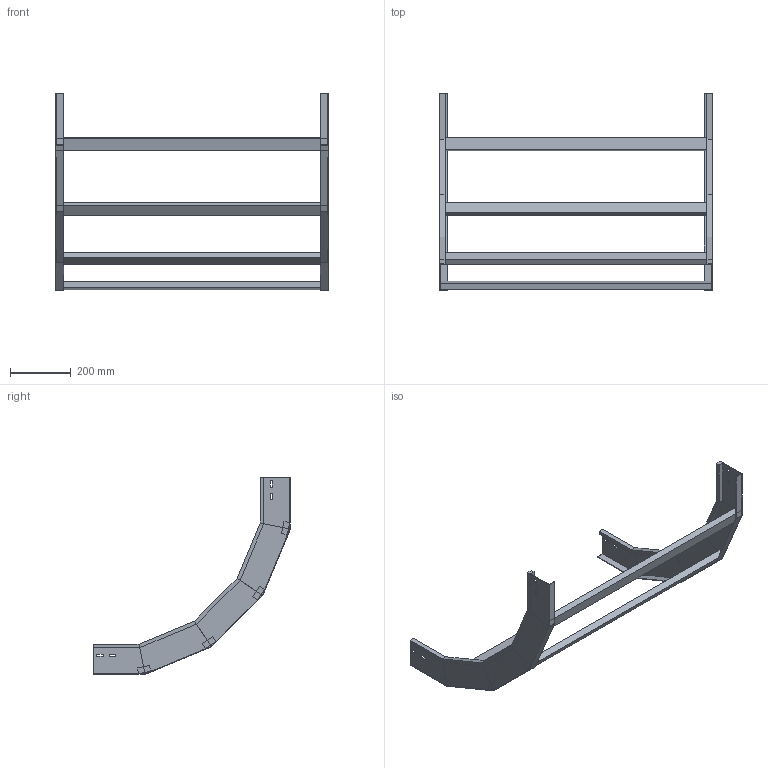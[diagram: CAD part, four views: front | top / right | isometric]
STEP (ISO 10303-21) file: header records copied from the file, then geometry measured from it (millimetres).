
FILE_DESCRIPTION (( 'STEP AP214' ), '1' );
FILE_NAME ('B2X30B5D900XX.step', '2025-03-20T10:21:08', ( '' ), ( '' ), 'SwSTEP 2.0', 'SolidWorks 2023', '' );
FILE_SCHEMA (( 'AUTOMOTIVE_DESIGN' ));
Length unit declared in the file: millimetre
Products named in the file (3): B2X30B5D900XX; LONGH.SALITA_90°_H100_R500; TRAVERSINO_900
Assembly tree (6 placements, depth 2):
  B2X30B5D900XX
    LONGH.SALITA_90°_H100_R500  x2
    TRAVERSINO_900  x4
Bounding box: 900 x 649.05 x 649.05 mm (x, y, z)
Volume: 3742445.4 mm3; surface area: 1000783.1 mm2
Topology: 6 solids, 6 shells, 140 faces, 320 edges, 192 vertices
Faces by surface type: plane 140
Entity records: 1872 total; most frequent: CARTESIAN_POINT 309, ORIENTED_EDGE 296, DIRECTION 294, EDGE_CURVE 148, VECTOR 148, LINE 148, VERTEX_POINT 88, AXIS2_PLACEMENT_3D 73
